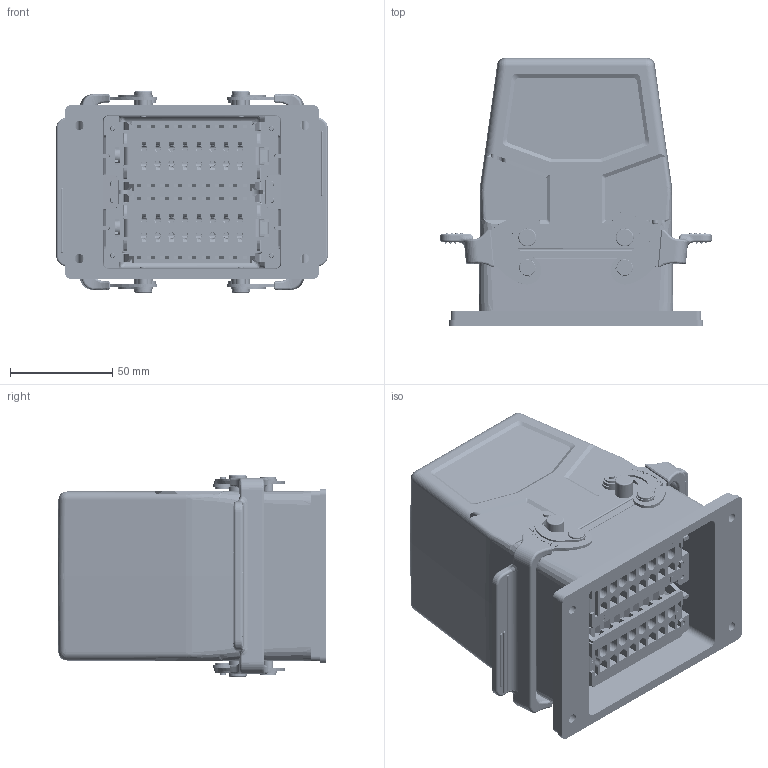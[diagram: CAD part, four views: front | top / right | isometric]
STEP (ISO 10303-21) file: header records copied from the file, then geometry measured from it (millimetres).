
FILE_DESCRIPTION (( 'STEP AP214' ), '1' );
FILE_NAME ('09032101132 HE、32针、开孔底座、侧出M32套件.STEP', '2024-04-28T07:12:36', ( 'L' ), ( '' ), 'SwSTEP 2.0', 'SolidWorks 2019', '' );
FILE_SCHEMA (( 'AUTOMOTIVE_DESIGN' ));
Length unit declared in the file: millimetre
Products named in the file (7): HE-016-FD.stp; H32B-AG.step; HE-016-M.stp; HE-016-F.stp; HE-016-MD.stp; H32B-TS-M32.step; 09032101132 HE、32针、开孔底座、侧出M32套件
Assembly tree (6 placements, depth 2):
  09032101132 HE、32针、开孔底座、侧出M32套件
    H32B-AG.step
    HE-016-M.stp
    HE-016-F.stp
    HE-016-MD.stp
    HE-016-FD.stp
    H32B-TS-M32.step
Bounding box: 132.45 x 131 x 98.5 mm (x, y, z)
Volume: 316527.7 mm3; surface area: 243330.6 mm2
Topology: 5 solids, 12 shells, 12792 faces, 35282 edges, 22432 vertices
Faces by surface type: plane 6116, bspline 2464, cylinder 2151, cone 1461, torus 465, sphere 135
Entity records: 550517 total; most frequent: CARTESIAN_POINT 209746, ORIENTED_EDGE 69541, DIRECTION 52627, EDGE_CURVE 34773, VERTEX_POINT 22364, LINE 18045, VECTOR 18045, AXIS2_PLACEMENT_3D 17291
